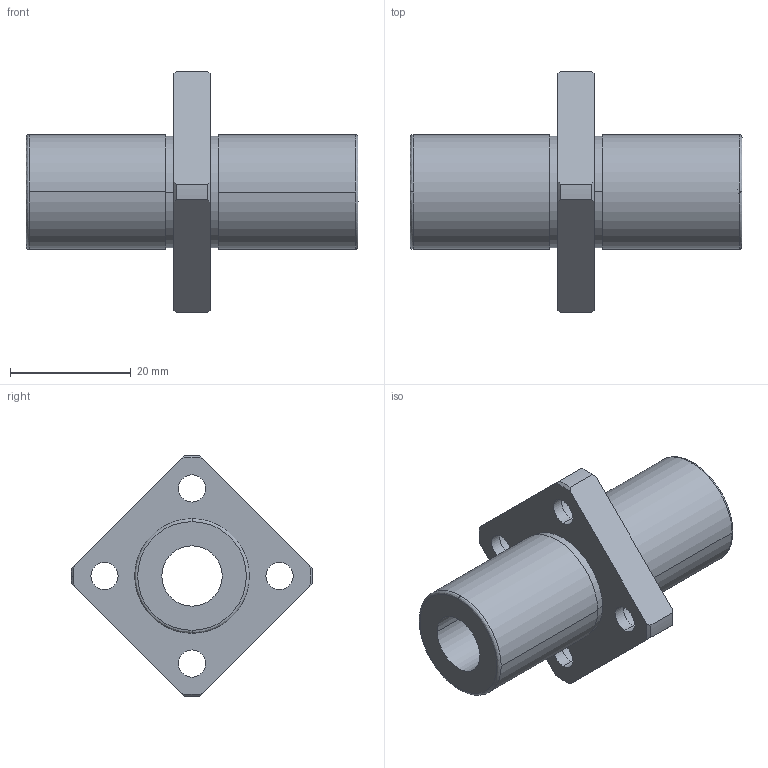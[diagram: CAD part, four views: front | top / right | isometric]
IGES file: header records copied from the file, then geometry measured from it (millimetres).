
Start section: 3D InterOp IGES (Version 21 0 1), Spatial Corp. Copyright (c) 1999-2007.
Global section: file name: NFCS-10VLUU.igs; native system: Spatial Corp.; preprocessor: 3D InterOp GENERIC/IGES 3.0; author: Noname; organization: Noname; date: 20220308.133658; units: millimetre
Bounding box: 55 x 40 x 39.99 mm (x, y, z)
Surface area: 7584.1 mm2 (no closed solid volume)
Topology: 0 solids, 0 shells, 59 faces, 296 edges, 294 vertices
Faces by surface type: revolution 45, extrusion 14
